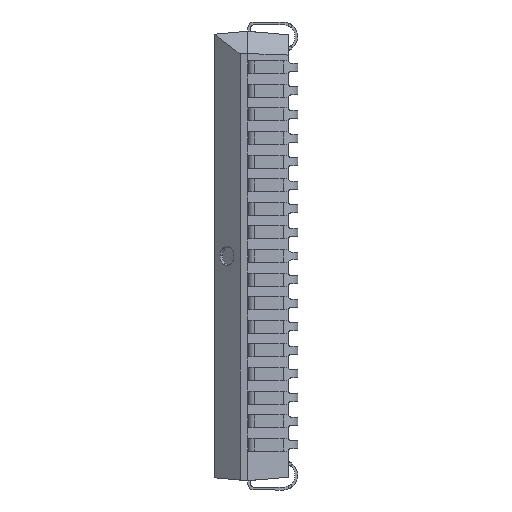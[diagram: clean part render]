
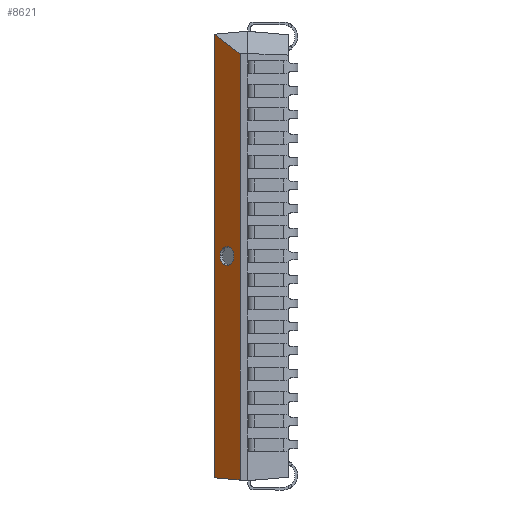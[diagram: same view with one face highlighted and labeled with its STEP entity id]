
A CAD part, left-side view. The second image highlights one B-rep face of the part: STEP entity #8621.
In plain terms, the highlighted planar face has unit normal (-0.75, 0.662, 0).
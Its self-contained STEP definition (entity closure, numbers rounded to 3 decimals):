
#205 = DIRECTION ( 'NONE',  ( -0.662, -0.75, 0. ) ) ;
#206 = DIRECTION ( 'NONE',  ( -0.75, 0.662, 0. ) ) ;
#207 = AXIS2_PLACEMENT_3D ( 'NONE', #211, #206, #205 ) ;
#208 = CIRCLE ( 'NONE', #207, 0.5 ) ;
#211 = CARTESIAN_POINT ( 'NONE',  ( 0.367, 3.811, 0. ) ) ;
#363 = CARTESIAN_POINT ( 'NONE',  ( 0.698, 4.186, 0. ) ) ;
#366 = CARTESIAN_POINT ( 'NONE',  ( 0.036, 3.436, 0. ) ) ;
#7090 = EDGE_CURVE ( 'NONE', #7095, #7163, #19389, .T. ) ;
#7095 = VERTEX_POINT ( 'NONE', #19368 ) ;
#7160 = EDGE_CURVE ( 'NONE', #7163, #20530, #19556, .T. ) ;
#7163 = VERTEX_POINT ( 'NONE', #19618 ) ;
#7347 = VERTEX_POINT ( 'NONE', #20495 ) ;
#8542 = ORIENTED_EDGE ( 'NONE', *, *, #8590, .F. ) ;
#8590 = EDGE_CURVE ( 'NONE', #8867, #8871, #24832, .T. ) ;
#8591 = ORIENTED_EDGE ( 'NONE', *, *, #8814, .F. ) ;
#8600 = EDGE_LOOP ( 'NONE', ( #8542, #8591 ) ) ;
#8621 = ADVANCED_FACE ( 'NONE', ( #24872, #24871 ), #24870, .F. ) ;
#8622 = EDGE_LOOP ( 'NONE', ( #8631, #8713, #8689, #8648 ) ) ;
#8631 = ORIENTED_EDGE ( 'NONE', *, *, #7090, .F. ) ;
#8648 = ORIENTED_EDGE ( 'NONE', *, *, #7160, .F. ) ;
#8689 = ORIENTED_EDGE ( 'NONE', *, *, #21687, .T. ) ;
#8713 = ORIENTED_EDGE ( 'NONE', *, *, #20537, .F. ) ;
#8814 = EDGE_CURVE ( 'NONE', #8871, #8867, #208, .T. ) ;
#8867 = VERTEX_POINT ( 'NONE', #366 ) ;
#8871 = VERTEX_POINT ( 'NONE', #363 ) ;
#19368 = CARTESIAN_POINT ( 'NONE',  ( -0.254, 3.107, 10.885 ) ) ;
#19386 = DIRECTION ( 'NONE',  ( 0., 0., -1. ) ) ;
#19387 = VECTOR ( 'NONE', #19386, 1000. ) ;
#19388 = CARTESIAN_POINT ( 'NONE',  ( -0.254, 3.107, 10.9 ) ) ;
#19389 = LINE ( 'NONE', #19388, #19387 ) ;
#19556 = LINE ( 'NONE', #19621, #19620 ) ;
#19618 = CARTESIAN_POINT ( 'NONE',  ( -0.254, 3.107, -12.064 ) ) ;
#19619 = DIRECTION ( 'NONE',  ( 0.66, 0.748, 0.065 ) ) ;
#19620 = VECTOR ( 'NONE', #19619, 1000. ) ;
#19621 = CARTESIAN_POINT ( 'NONE',  ( -0.472, 2.86, -12.086 ) ) ;
#20495 = CARTESIAN_POINT ( 'NONE',  ( 0.975, 4.5, 11.943 ) ) ;
#20530 = VERTEX_POINT ( 'NONE', #48926 ) ;
#20537 = EDGE_CURVE ( 'NONE', #7347, #7095, #48925, .T. ) ;
#21687 = EDGE_CURVE ( 'NONE', #7347, #20530, #51128, .T. ) ;
#24828 = DIRECTION ( 'NONE',  ( -0.662, -0.75, 0. ) ) ;
#24829 = DIRECTION ( 'NONE',  ( -0.75, 0.662, 0. ) ) ;
#24830 = CARTESIAN_POINT ( 'NONE',  ( 0.367, 3.811, 0. ) ) ;
#24831 = AXIS2_PLACEMENT_3D ( 'NONE', #24830, #24829, #24828 ) ;
#24832 = CIRCLE ( 'NONE', #24831, 0.5 ) ;
#24866 = DIRECTION ( 'NONE',  ( 0.662, 0.75, 0. ) ) ;
#24867 = DIRECTION ( 'NONE',  ( 0.75, -0.662, 0. ) ) ;
#24868 = CARTESIAN_POINT ( 'NONE',  ( -0.79, 2.5, -12.1 ) ) ;
#24869 = AXIS2_PLACEMENT_3D ( 'NONE', #24868, #24867, #24866 ) ;
#24870 = PLANE ( 'NONE',  #24869 ) ;
#24871 = FACE_OUTER_BOUND ( 'NONE', #8622, .T. ) ;
#24872 = FACE_BOUND ( 'NONE', #8600, .T. ) ;
#48922 = DIRECTION ( 'NONE',  ( -0.575, -0.652, -0.495 ) ) ;
#48923 = VECTOR ( 'NONE', #48922, 1000. ) ;
#48924 = CARTESIAN_POINT ( 'NONE',  ( -0.414, 2.925, 10.748 ) ) ;
#48925 = LINE ( 'NONE', #48924, #48923 ) ;
#48926 = CARTESIAN_POINT ( 'NONE',  ( 0.975, 4.5, -11.943 ) ) ;
#51125 = DIRECTION ( 'NONE',  ( 0., 0., -1. ) ) ;
#51126 = VECTOR ( 'NONE', #51125, 1000. ) ;
#51127 = CARTESIAN_POINT ( 'NONE',  ( 0.975, 4.5, 0. ) ) ;
#51128 = LINE ( 'NONE', #51127, #51126 ) ;
